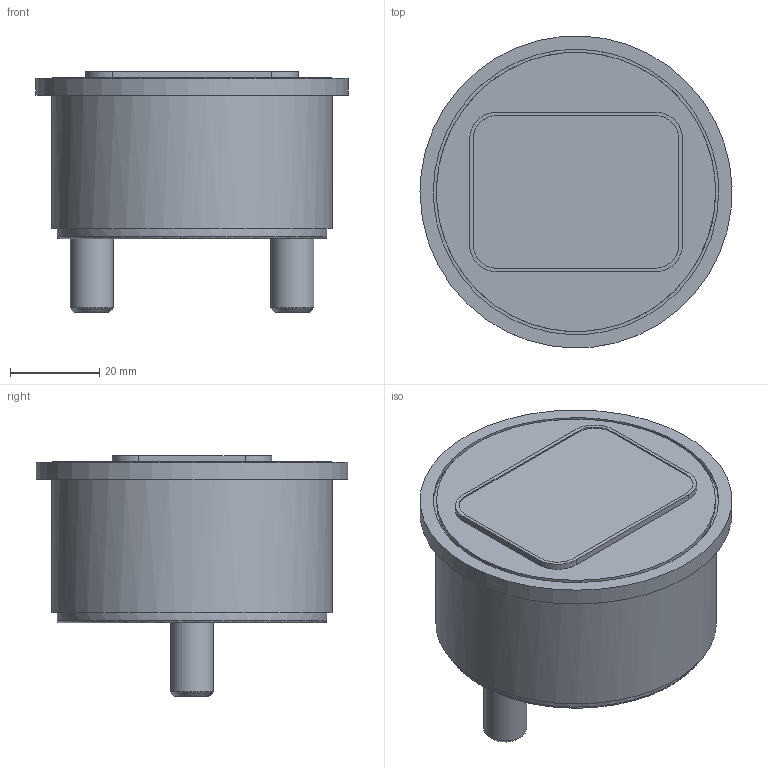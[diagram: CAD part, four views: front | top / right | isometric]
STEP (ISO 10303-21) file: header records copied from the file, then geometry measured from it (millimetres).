
FILE_DESCRIPTION(/* description */ (''),/* implementation_level */ '2;1');
FILE_NAME(/* name */ '9-117',/* time_stamp */ '2022-06-30T10:47:48+02:00',/* author */ (''),/* organization */ (''),/* preprocessor_version */ 'ST-DEVELOPER v16.5',/* originating_system */ 'Rhino 7.20',/* authorisation */ '');
FILE_SCHEMA (('AUTOMOTIVE_DESIGN_CC2'));
Length unit declared in the file: millimetre
Products named in the file (1): Document
Bounding box: 69.98 x 69.96 x 54 mm (x, y, z)
Volume: 118902.8 mm3; surface area: 16462.7 mm2
Topology: 1 solids, 1 shells, 36 faces, 75 edges, 49 vertices
Faces by surface type: plane 18, cylinder 15, bspline 3
Full cylindrical faces by diameter (mm): 9.64 x2, 60.5 x1, 62.6 x1, 63 x1, 64 x1, 70 x1
Entity records: 1000 total; most frequent: CARTESIAN_POINT 433, ORIENTED_EDGE 150, EDGE_CURVE 75, VERTEX_POINT 49, EDGE_LOOP 44, DIRECTION 37, ADVANCED_FACE 36, FACE_OUTER_BOUND 36
